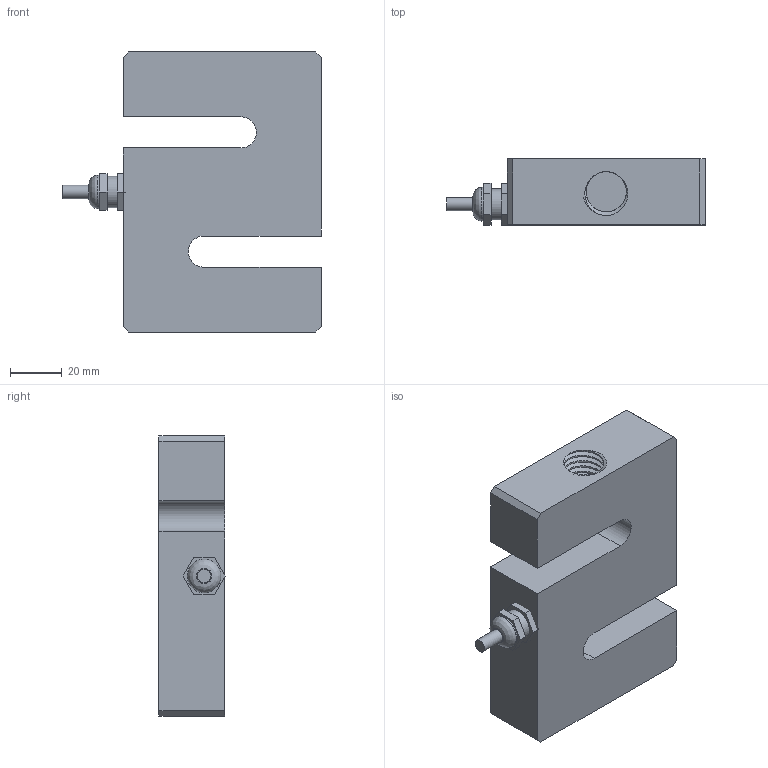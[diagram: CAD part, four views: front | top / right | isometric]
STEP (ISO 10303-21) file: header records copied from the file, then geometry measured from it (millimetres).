
FILE_DESCRIPTION(/* description */ (''),/* implementation_level */ '2;1');
FILE_NAME(/* name */ 'C:/Users/fardi/Dropbox/Anyload/Load Cell Models/3D Drawing/101/101BH-(2-5)t v3.step',/* time_stamp */ '2020-01-22T15:39:50-08:00',/* author */ (''),/* organization */ (''),/* preprocessor_version */ 'ST-DEVELOPER v18',/* originating_system */ 'Autodesk Translation Framework v8.12.0.6',/* authorisation */ '');
FILE_SCHEMA (('AUTOMOTIVE_DESIGN { 1 0 10303 214 3 1 1 }'));
Length unit declared in the file: millimetre
Products named in the file (2): 101BH-(2-5)t; Connector v1
Assembly tree (1 placements, depth 2):
  101BH-(2-5)t
    Connector v1
Bounding box: 99.56 x 25.48 x 107.95 mm (x, y, z)
Volume: 161362.1 mm3; surface area: 35866.8 mm2
Topology: 2 solids, 5 shells, 85 faces, 199 edges, 131 vertices
Faces by surface type: plane 43, cylinder 37, bspline 5
Full cylindrical faces by diameter (mm): 5.1 x1, 10 x1, 12 x1, 13 x1, 15.519 x8, 18.293 x10, 26.6 x1, 27.8 x2, 29.4 x2
Entity records: 5603 total; most frequent: CARTESIAN_POINT 3688, ORIENTED_EDGE 398, DIRECTION 341, EDGE_CURVE 199, VERTEX_POINT 131, AXIS2_PLACEMENT_3D 115, LINE 111, VECTOR 111
